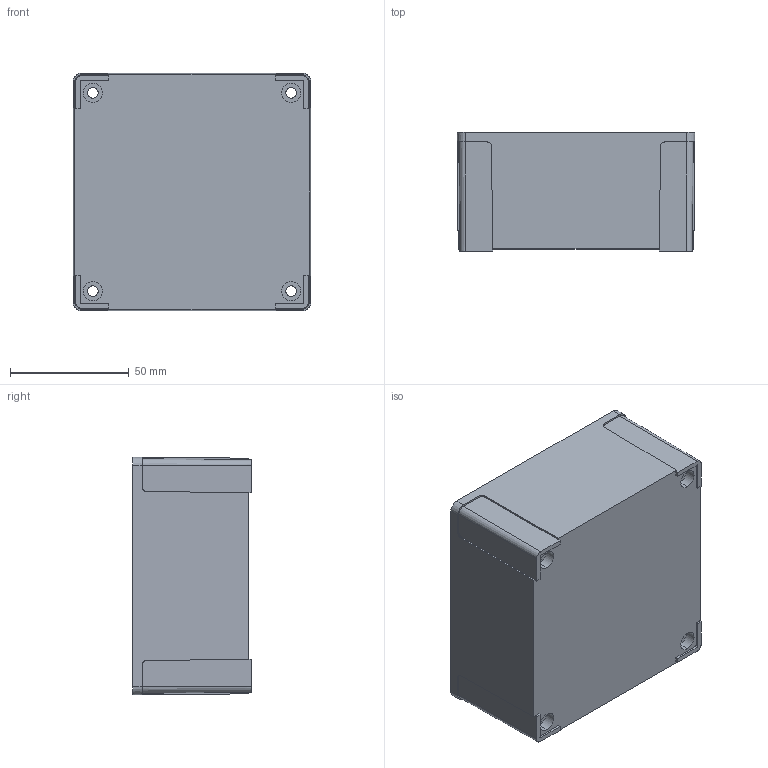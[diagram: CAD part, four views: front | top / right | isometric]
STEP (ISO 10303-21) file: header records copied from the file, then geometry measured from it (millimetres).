
FILE_DESCRIPTION (( 'STEP AP203' ), '1' );
FILE_NAME ('FIBOX_MNX95HB.STEP', '2005-06-30T09:53:35', ( ' ' ), ( ' ' ), 'SwSTEP 2.0', 'SolidWorks 2005143', '' );
FILE_SCHEMA (( 'CONFIG_CONTROL_DESIGN' ));
Length unit declared in the file: millimetre
Products named in the file (1): FIBOX_MNX95HB
Bounding box: 100.1 x 50 x 100.1 mm (x, y, z)
Volume: 122011.1 mm3; surface area: 63507.8 mm2
Topology: 1 solids, 1 shells, 314 faces, 777 edges, 518 vertices
Faces by surface type: plane 170, cylinder 124, cone 20
Entity records: 9538 total; most frequent: CARTESIAN_POINT 1754, DIRECTION 1655, ORIENTED_EDGE 1554, EDGE_CURVE 777, AXIS2_PLACEMENT_3D 595, VERTEX_POINT 518, VECTOR 465, LINE 465
